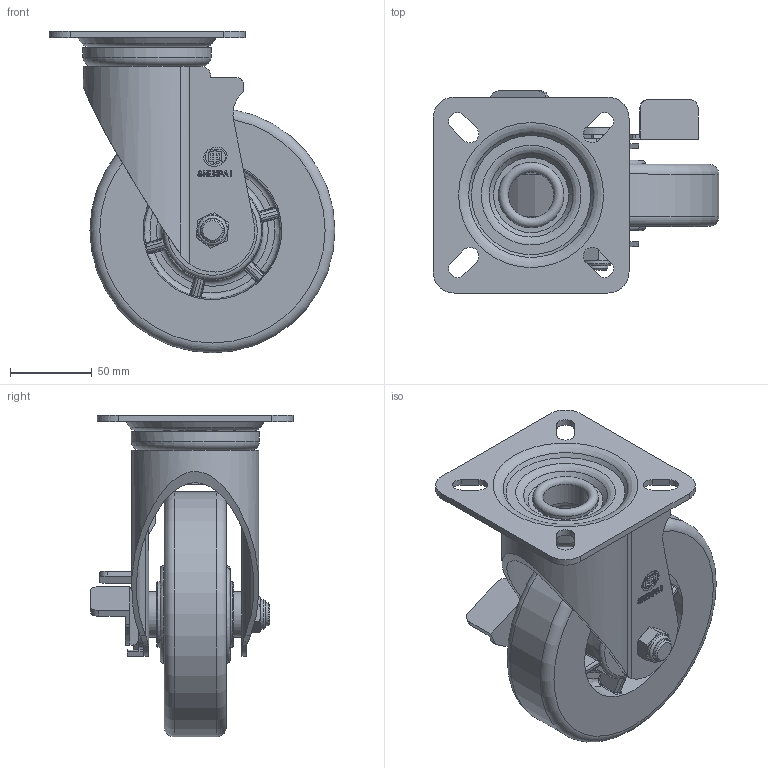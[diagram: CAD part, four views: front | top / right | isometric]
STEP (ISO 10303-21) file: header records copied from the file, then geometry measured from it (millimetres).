
FILE_DESCRIPTION(/* description */ (''),/* implementation_level */ '2;1');
FILE_NAME(/* name */ '25A74_6_F.stp',/* time_stamp */ '2022-10-06T15:45:18+08:00',/* author */ (''),/* organization */ (''),/* preprocessor_version */ 'ST-DEVELOPER v14',/* originating_system */ 'SIEMENS PLM Software NX 8.0',/* authorisation */ '');
FILE_SCHEMA (('AUTOMOTIVE_DESIGN { 1 0 10303 214 3 1 1 1 }'));
Products named in the file (1): 25A74_6_F
Bounding box: 175 x 123.96 x 197 mm (x, y, z)
Volume: 772775.9 mm3; surface area: 196299.7 mm2
Topology: 3 solids, 8 shells, 840 faces, 2081 edges, 1294 vertices
Faces by surface type: plane 347, bspline 207, cylinder 182, torus 53, cone 47, sphere 3, extrusion 1
Full cylindrical faces by diameter (mm): 14 x1, 18 x1, 20 x1, 20.5 x1, 22.75 x1, 24.188 x4, 27 x1, 27.8 x1, 28 x2, 32.1 x1, 32.8 x1, 32.812 x2, 34.25 x1, 37.5 x1, 39.85 x2, 40 x2, 40.066 x1, 43.2 x1, 43.3 x1, 46 x1, 73.5 x1, 78.5 x1, 150 x1
Entity records: 40068 total; most frequent: CARTESIAN_POINT 22279, ORIENTED_EDGE 3924, DIRECTION 3226, EDGE_CURVE 1962, AXIS2_PLACEMENT_3D 1283, VERTEX_POINT 1257, EDGE_LOOP 987, ADVANCED_FACE 840
